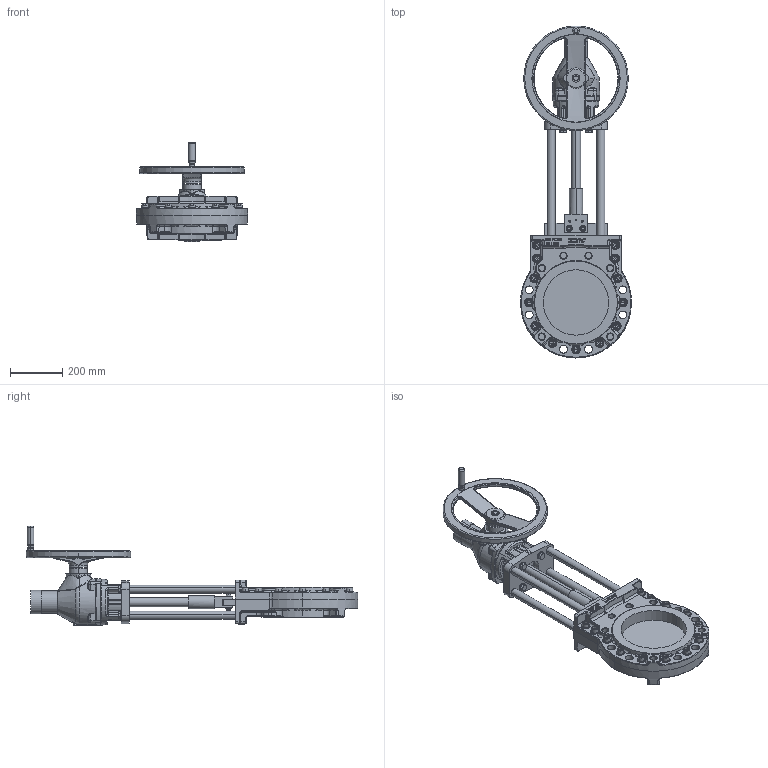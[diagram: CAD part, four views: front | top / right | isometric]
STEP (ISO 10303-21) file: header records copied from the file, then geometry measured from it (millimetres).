
FILE_DESCRIPTION (( 'STEP AP214' ), '1' );
FILE_NAME ('MHA DN 250 GK14.2.STEP', '2015-04-28T08:49:33', ( 'admin' ), ( 'Hewlett-Packard Company' ), 'SwSTEP 2.0', 'SolidWorks 2013', '' );
FILE_SCHEMA (( 'AUTOMOTIVE_DESIGN' ));
Length unit declared in the file: millimetre
Products named in the file (1): MHA DN 250 GK14.2
Bounding box: 425 x 1269.5 x 380 mm (x, y, z)
Volume: 20858774.9 mm3; surface area: 1758285.1 mm2
Topology: 54 solids, 65 shells, 2832 faces, 6742 edges, 3994 vertices
Faces by surface type: plane 914, cylinder 726, cone 436, bspline 423, torus 323, sphere 10
Entity records: 134247 total; most frequent: CARTESIAN_POINT 39745, ORIENTED_EDGE 13092, DIRECTION 13077, EDGE_CURVE 6546, AXIS2_PLACEMENT_3D 5185, VERTEX_POINT 3994, EDGE_LOOP 3080, UNCERTAINTY_MEASURE_WITH_UNIT 2886
